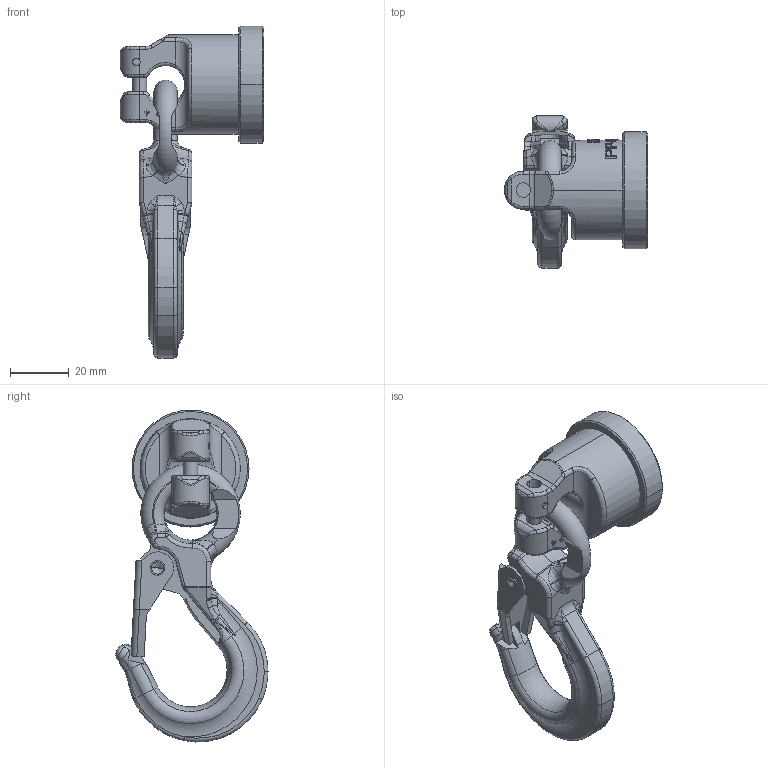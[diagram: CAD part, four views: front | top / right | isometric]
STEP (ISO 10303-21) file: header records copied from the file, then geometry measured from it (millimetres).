
FILE_DESCRIPTION((''),'2;1');
FILE_NAME('001-M31453-P-40_ASM','2018-04-27T',('Anja.Joas'),(''),'PRO/ENGINEER BY PARAMETRIC TECHNOLOGY CORPORATION, 2011490','PRO/ENGINEER BY PARAMETRIC TECHNOLOGY CORPORATION, 2011490','');
FILE_SCHEMA(('CONFIG_CONTROL_DESIGN'));
Length unit declared in the file: millimetre
Products named in the file (6): 001-M31453-P-20; 001-M31453-P-50; 001-M31569-P-1; 001-M31567-P-1; 001-M31569-P-1_ASM; 001-M31453-P-40_ASM
Assembly tree (5 placements, depth 3):
  001-M31453-P-40_ASM
    001-M31453-P-20
    001-M31453-P-50
    001-M31569-P-1_ASM
      001-M31569-P-1
      001-M31567-P-1
Bounding box: 49 x 51.99 x 113.49 mm (x, y, z)
Volume: 55216.3 mm3; surface area: 19019.5 mm2
Topology: 4 solids, 4 shells, 789 faces, 2062 edges, 1301 vertices
Faces by surface type: plane 455, cylinder 135, bspline 129, torus 50, cone 14, sphere 6
Entity records: 29383 total; most frequent: CARTESIAN_POINT 11469, ORIENTED_EDGE 4116, DIRECTION 3164, EDGE_CURVE 2058, VERTEX_POINT 1301, AXIS2_PLACEMENT_3D 1167, VECTOR 830, LINE 830
